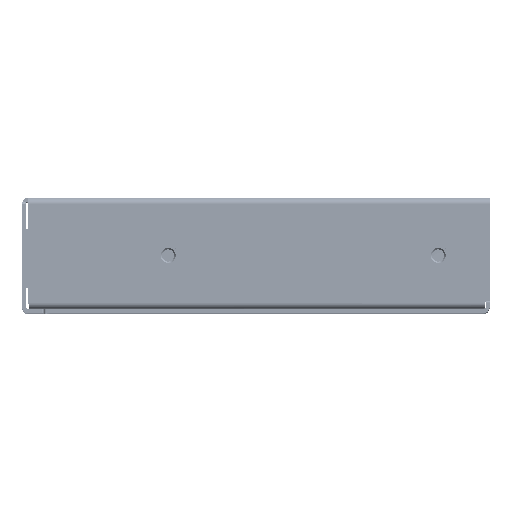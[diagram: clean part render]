
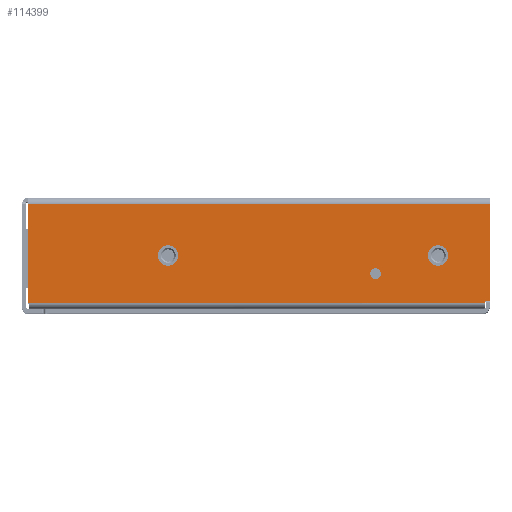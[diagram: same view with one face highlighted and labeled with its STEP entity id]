
A CAD part, top view. The second image highlights one B-rep face of the part: STEP entity #114399.
In plain terms, the highlighted planar face has unit normal (0, 0, 1).
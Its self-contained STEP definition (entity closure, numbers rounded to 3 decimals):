
#2036 = CIRCLE ( 'NONE', #254070, 2.375 ) ;
#3093 = VERTEX_POINT ( 'NONE', #55683 ) ;
#11970 = ORIENTED_EDGE ( 'NONE', *, *, #26292, .F. ) ;
#12159 = VERTEX_POINT ( 'NONE', #315611 ) ;
#15268 = DIRECTION ( 'NONE',  ( 0., 1., 0. ) ) ;
#17762 = VERTEX_POINT ( 'NONE', #520925 ) ;
#21493 = AXIS2_PLACEMENT_3D ( 'NONE', #51966, #101230, #598058 ) ;
#26292 = EDGE_CURVE ( 'NONE', #3093, #3093, #308486, .T. ) ;
#38068 = EDGE_LOOP ( 'NONE', ( #459577, #346625, #59730, #571151, #227208, #559088 ) ) ;
#41395 = CIRCLE ( 'NONE', #219727, 1.25 ) ;
#51966 = CARTESIAN_POINT ( 'NONE',  ( -0.665, 25.176, 68.891 ) ) ;
#55683 = CARTESIAN_POINT ( 'NONE',  ( -21.115, 14.963, 68.891 ) ) ;
#59730 = ORIENTED_EDGE ( 'NONE', *, *, #492117, .T. ) ;
#61660 = FACE_BOUND ( 'NONE', #171166, .T. ) ;
#66380 = VERTEX_POINT ( 'NONE', #510934 ) ;
#67109 = AXIS2_PLACEMENT_3D ( 'NONE', #570091, #116205, #119451 ) ;
#78559 = DIRECTION ( 'NONE',  ( 0., 0., 1. ) ) ;
#100908 = DIRECTION ( 'NONE',  ( -1., 0., 0. ) ) ;
#101230 = DIRECTION ( 'NONE',  ( 0., 0., 1. ) ) ;
#107965 = DIRECTION ( 'NONE',  ( 1., 0., 0. ) ) ;
#114399 = ADVANCED_FACE ( 'NONE', ( #462917, #61660, #157073, #610940 ), #212896, .T. ) ;
#116205 = DIRECTION ( 'NONE',  ( 0., 0., 1. ) ) ;
#119451 = DIRECTION ( 'NONE',  ( 0., 1., 0. ) ) ;
#132911 = CARTESIAN_POINT ( 'NONE',  ( 27.29, 9.591, 68.891 ) ) ;
#143794 = ORIENTED_EDGE ( 'NONE', *, *, #523081, .F. ) ;
#157073 = FACE_BOUND ( 'NONE', #405276, .T. ) ;
#171166 = EDGE_LOOP ( 'NONE', ( #143794 ) ) ;
#183271 = VERTEX_POINT ( 'NONE', #345093 ) ;
#196162 = DIRECTION ( 'NONE',  ( 1., 0., 0. ) ) ;
#196316 = CARTESIAN_POINT ( 'NONE',  ( 27.29, 8.341, 68.891 ) ) ;
#201016 = ORIENTED_EDGE ( 'NONE', *, *, #202854, .F. ) ;
#202854 = EDGE_CURVE ( 'NONE', #17762, #17762, #2036, .T. ) ;
#212896 = PLANE ( 'NONE',  #21493 ) ;
#216345 = CARTESIAN_POINT ( 'NONE',  ( -0.665, 2.068, 68.891 ) ) ;
#219727 = AXIS2_PLACEMENT_3D ( 'NONE', #196316, #498867, #597637 ) ;
#223012 = EDGE_CURVE ( 'NONE', #12159, #428670, #298684, .T. ) ;
#227208 = ORIENTED_EDGE ( 'NONE', *, *, #474220, .T. ) ;
#242519 = CARTESIAN_POINT ( 'NONE',  ( -0.665, 24.576, 68.891 ) ) ;
#253221 = CARTESIAN_POINT ( 'NONE',  ( -53.703, 1.612, 68.891 ) ) ;
#254070 = AXIS2_PLACEMENT_3D ( 'NONE', #387589, #78559, #272722 ) ;
#259320 = EDGE_CURVE ( 'NONE', #66380, #312823, #315127, .T. ) ;
#272722 = DIRECTION ( 'NONE',  ( 0., 1., 0. ) ) ;
#274886 = LINE ( 'NONE', #528148, #276879 ) ;
#276879 = VECTOR ( 'NONE', #15268, 1000. ) ;
#298684 = LINE ( 'NONE', #505733, #457923 ) ;
#302149 = CARTESIAN_POINT ( 'NONE',  ( 52.885, 1.612, 68.891 ) ) ;
#305139 = DIRECTION ( 'NONE',  ( 0., -1., 0. ) ) ;
#308486 = CIRCLE ( 'NONE', #67109, 2.375 ) ;
#312823 = VERTEX_POINT ( 'NONE', #533093 ) ;
#315127 = LINE ( 'NONE', #216345, #464309 ) ;
#315611 = CARTESIAN_POINT ( 'NONE',  ( -53.703, 24.576, 68.891 ) ) ;
#345093 = CARTESIAN_POINT ( 'NONE',  ( 53.885, 24.576, 68.891 ) ) ;
#346625 = ORIENTED_EDGE ( 'NONE', *, *, #630068, .T. ) ;
#379706 = VERTEX_POINT ( 'NONE', #132911 ) ;
#387589 = CARTESIAN_POINT ( 'NONE',  ( 41.885, 12.588, 68.891 ) ) ;
#405276 = EDGE_LOOP ( 'NONE', ( #201016 ) ) ;
#412862 = EDGE_CURVE ( 'NONE', #473755, #66380, #509927, .T. ) ;
#428670 = VERTEX_POINT ( 'NONE', #253221 ) ;
#443185 = LINE ( 'NONE', #242519, #536991 ) ;
#457348 = DIRECTION ( 'NONE',  ( 0., 1., 0. ) ) ;
#457923 = VECTOR ( 'NONE', #305139, 1000. ) ;
#459577 = ORIENTED_EDGE ( 'NONE', *, *, #259320, .T. ) ;
#460592 = CARTESIAN_POINT ( 'NONE',  ( 52.885, 25.176, 68.891 ) ) ;
#462917 = FACE_OUTER_BOUND ( 'NONE', #38068, .T. ) ;
#464309 = VECTOR ( 'NONE', #107965, 1000. ) ;
#473755 = VERTEX_POINT ( 'NONE', #302149 ) ;
#474220 = EDGE_CURVE ( 'NONE', #428670, #473755, #650001, .T. ) ;
#479681 = EDGE_LOOP ( 'NONE', ( #11970 ) ) ;
#492117 = EDGE_CURVE ( 'NONE', #183271, #12159, #443185, .T. ) ;
#498867 = DIRECTION ( 'NONE',  ( 0., 0., 1. ) ) ;
#505733 = CARTESIAN_POINT ( 'NONE',  ( -53.703, 25.176, 68.891 ) ) ;
#509927 = LINE ( 'NONE', #460592, #573085 ) ;
#510934 = CARTESIAN_POINT ( 'NONE',  ( 52.885, 2.068, 68.891 ) ) ;
#520925 = CARTESIAN_POINT ( 'NONE',  ( 41.885, 14.963, 68.891 ) ) ;
#523081 = EDGE_CURVE ( 'NONE', #379706, #379706, #41395, .T. ) ;
#528148 = CARTESIAN_POINT ( 'NONE',  ( 53.885, 25.176, 68.891 ) ) ;
#533093 = CARTESIAN_POINT ( 'NONE',  ( 53.885, 2.068, 68.891 ) ) ;
#536991 = VECTOR ( 'NONE', #100908, 1000. ) ;
#559088 = ORIENTED_EDGE ( 'NONE', *, *, #412862, .T. ) ;
#570091 = CARTESIAN_POINT ( 'NONE',  ( -21.115, 12.588, 68.891 ) ) ;
#571151 = ORIENTED_EDGE ( 'NONE', *, *, #223012, .T. ) ;
#573085 = VECTOR ( 'NONE', #457348, 1000. ) ;
#590778 = VECTOR ( 'NONE', #196162, 1000. ) ;
#594266 = CARTESIAN_POINT ( 'NONE',  ( -53.703, 1.612, 68.891 ) ) ;
#597637 = DIRECTION ( 'NONE',  ( 0., 1., 0. ) ) ;
#598058 = DIRECTION ( 'NONE',  ( 0., 1., 0. ) ) ;
#610940 = FACE_BOUND ( 'NONE', #479681, .T. ) ;
#630068 = EDGE_CURVE ( 'NONE', #312823, #183271, #274886, .T. ) ;
#650001 = LINE ( 'NONE', #594266, #590778 ) ;
